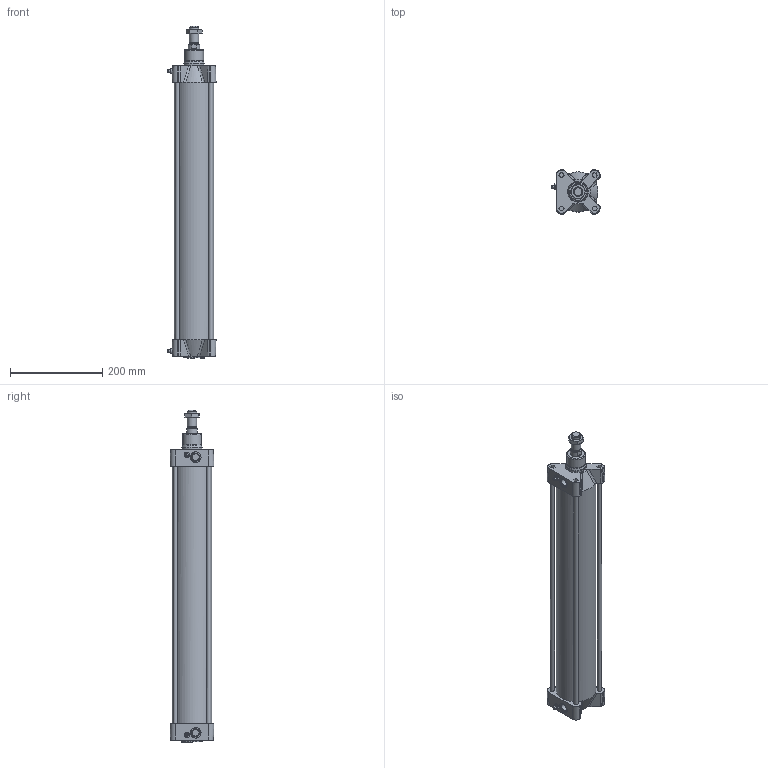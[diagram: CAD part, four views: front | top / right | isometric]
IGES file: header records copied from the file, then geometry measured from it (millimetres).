
Global section: file name: 1393_080_0500_01; native system: Autodesk Inventor 2014; preprocessor: unknown; author: A. Manieri; date: 20151130.150819; units: millimetre
Bounding box: 104 x 95 x 718 mm (x, y, z)
Volume: 1647675.1 mm3; surface area: 497308.7 mm2
Topology: 3 solids, 5 shells, 233 faces, 578 edges, 377 vertices
Faces by surface type: bspline 233
